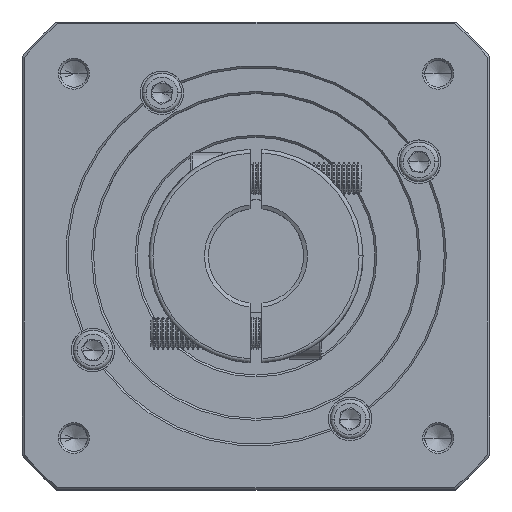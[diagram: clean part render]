
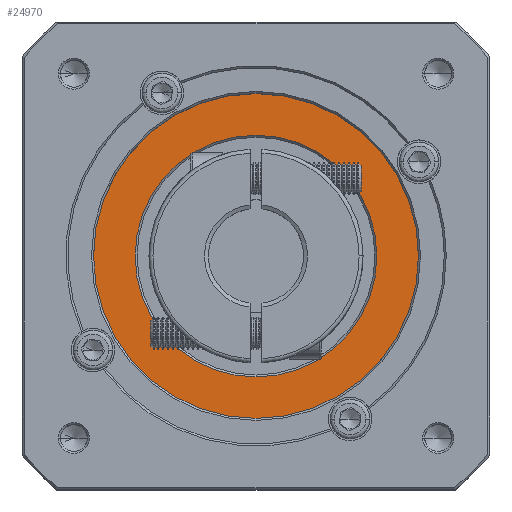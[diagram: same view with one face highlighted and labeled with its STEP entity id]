
A CAD part, top view. The second image highlights one B-rep face of the part: STEP entity #24970.
In plain terms, the highlighted planar face has unit normal (0, 0, 1).
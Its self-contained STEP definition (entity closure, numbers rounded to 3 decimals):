
#6801 = DIRECTION ( 'NONE',  ( 0., 0., -1. ) ) ;
#7508 = CARTESIAN_POINT ( 'NONE',  ( -118.633, 60.83, 5.512 ) ) ;
#11901 = ORIENTED_EDGE ( 'NONE', *, *, #64698, .T. ) ;
#17673 = DIRECTION ( 'NONE',  ( 0., -1., 0. ) ) ;
#24970 = ADVANCED_FACE ( 'NONE', ( #82384, #111830 ), #26000, .T. ) ;
#26000 = PLANE ( 'NONE',  #41539 ) ;
#35602 = EDGE_CURVE ( 'NONE', #55461, #110843, #64219, .T. ) ;
#41539 = AXIS2_PLACEMENT_3D ( 'NONE', #7508, #81452, #101187 ) ;
#41871 = CARTESIAN_POINT ( 'NONE',  ( -77.633, 60.83, 5.512 ) ) ;
#41905 = DIRECTION ( 'NONE',  ( 1., 0., 0. ) ) ;
#44216 = EDGE_CURVE ( 'NONE', #52135, #119284, #95996, .T. ) ;
#51453 = EDGE_LOOP ( 'NONE', ( #95738, #11901 ) ) ;
#51740 = DIRECTION ( 'NONE',  ( 0., 0., 1. ) ) ;
#52135 = VERTEX_POINT ( 'NONE', #41871 ) ;
#54986 = CARTESIAN_POINT ( 'NONE',  ( -118.633, 60.83, 5.512 ) ) ;
#55315 = DIRECTION ( 'NONE',  ( 0., 0., 1. ) ) ;
#55410 = AXIS2_PLACEMENT_3D ( 'NONE', #119353, #6801, #121026 ) ;
#55461 = VERTEX_POINT ( 'NONE', #82114 ) ;
#64219 = CIRCLE ( 'NONE', #55410, 30.5 ) ;
#64698 = EDGE_CURVE ( 'NONE', #119284, #52135, #109392, .T. ) ;
#73860 = DIRECTION ( 'NONE',  ( 0., 0., -1. ) ) ;
#81452 = DIRECTION ( 'NONE',  ( 0., 0., 1. ) ) ;
#81791 = ORIENTED_EDGE ( 'NONE', *, *, #35602, .T. ) ;
#82048 = CARTESIAN_POINT ( 'NONE',  ( -118.633, 60.83, 5.512 ) ) ;
#82114 = CARTESIAN_POINT ( 'NONE',  ( -118.633, 91.33, 5.512 ) ) ;
#82384 = FACE_OUTER_BOUND ( 'NONE', #51453, .T. ) ;
#83678 = DIRECTION ( 'NONE',  ( 1., 0., 0. ) ) ;
#88280 = EDGE_CURVE ( 'NONE', #110843, #55461, #119263, .T. ) ;
#88496 = EDGE_LOOP ( 'NONE', ( #90125, #81791 ) ) ;
#90125 = ORIENTED_EDGE ( 'NONE', *, *, #88280, .T. ) ;
#95738 = ORIENTED_EDGE ( 'NONE', *, *, #44216, .T. ) ;
#95996 = CIRCLE ( 'NONE', #118357, 41. ) ;
#98958 = CARTESIAN_POINT ( 'NONE',  ( -118.633, 30.33, 5.512 ) ) ;
#101187 = DIRECTION ( 'NONE',  ( 1., 0., 0. ) ) ;
#102672 = AXIS2_PLACEMENT_3D ( 'NONE', #117881, #51740, #41905 ) ;
#109392 = CIRCLE ( 'NONE', #102672, 41. ) ;
#110843 = VERTEX_POINT ( 'NONE', #98958 ) ;
#110959 = AXIS2_PLACEMENT_3D ( 'NONE', #54986, #73860, #17673 ) ;
#111830 = FACE_BOUND ( 'NONE', #88496, .T. ) ;
#114036 = CARTESIAN_POINT ( 'NONE',  ( -159.633, 60.83, 5.512 ) ) ;
#117881 = CARTESIAN_POINT ( 'NONE',  ( -118.633, 60.83, 5.512 ) ) ;
#118357 = AXIS2_PLACEMENT_3D ( 'NONE', #82048, #55315, #83678 ) ;
#119263 = CIRCLE ( 'NONE', #110959, 30.5 ) ;
#119284 = VERTEX_POINT ( 'NONE', #114036 ) ;
#119353 = CARTESIAN_POINT ( 'NONE',  ( -118.633, 60.83, 5.512 ) ) ;
#121026 = DIRECTION ( 'NONE',  ( 0., -1., 0. ) ) ;
